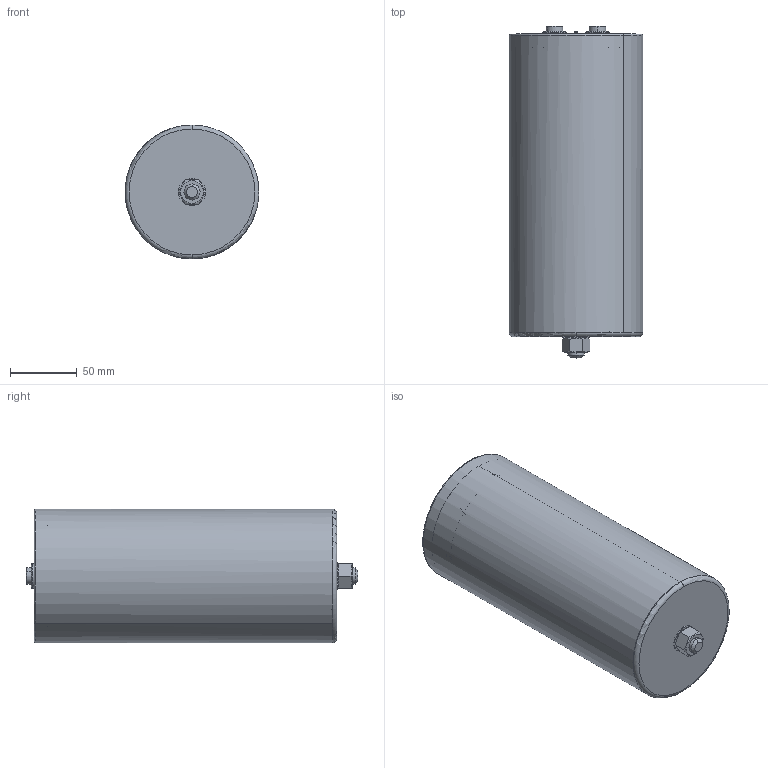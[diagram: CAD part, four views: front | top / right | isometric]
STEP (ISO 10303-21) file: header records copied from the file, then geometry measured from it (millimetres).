
FILE_DESCRIPTION (( 'STEP AP214' ), '1' );
FILE_NAME ('B25696 Series D100Hc226Ht232.STEP', '2025-03-20T05:54:32', ( '' ), ( '' ), 'SwSTEP 2.0', 'SolidWorks 2019', '' );
FILE_SCHEMA (( 'AUTOMOTIVE_DESIGN' ));
Length unit declared in the file: millimetre
Products named in the file (1): B25696 Series D100Hc226Ht232
Bounding box: 99.91 x 248 x 100 mm (x, y, z)
Volume: 122851.5 mm3; surface area: 188605.8 mm2
Topology: 1 solids, 5 shells, 368 faces, 936 edges, 591 vertices
Faces by surface type: plane 166, cylinder 132, cone 50, torus 20
Entity records: 11507 total; most frequent: CARTESIAN_POINT 2600, DIRECTION 1905, ORIENTED_EDGE 1864, EDGE_CURVE 932, AXIS2_PLACEMENT_3D 748, VERTEX_POINT 591, LINE 409, VECTOR 409
